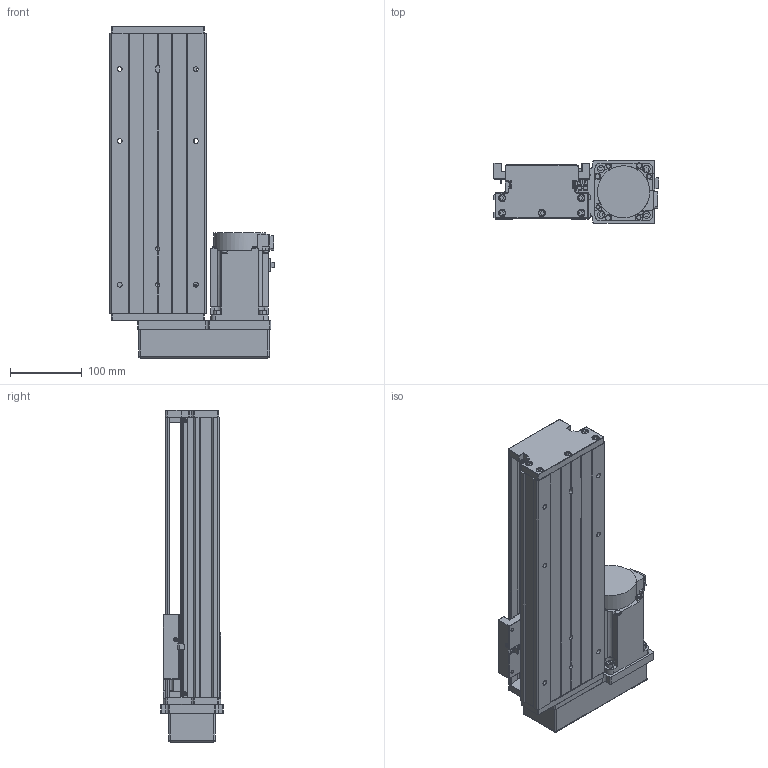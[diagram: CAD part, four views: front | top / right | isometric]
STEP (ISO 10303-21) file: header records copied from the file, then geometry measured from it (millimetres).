
FILE_DESCRIPTION (( 'STEP AP203' ), '1' );
FILE_NAME ('KTH130-250-BR-M75-C4.step', '2023-06-30T04:54:55', ( '微软用户' ), ( '微软中国' ), 'SwSTEP 2.0', 'SolidWorks 2020', '' );
FILE_SCHEMA (( 'CONFIG_CONTROL_DESIGN' ));
Length unit declared in the file: millimetre
Products named in the file (18): KTH130-005; GBT 70.1-M3℅5; GB1155-6X6; GBT77-2000 M3×3; KTH130-250-BR-M75-C4; GBT70.1 M5℅16; す晦芛蹟隊 M3℅5; GBT 70.2-M3¡Á5_M3¡Á6; GBT 70.3-M3℅8; GTH14-001_250; CTHA60-017; hg-kn73j_-s100; KTH130-002_KTH130-002; EE_SX911P_R; CTHA86-015-3_CTHA86-015-4; KTH130-004; CTHA60-016; CTHA86-035
Assembly tree (49 placements, depth 2):
  KTH130-250-BR-M75-C4
    GTH14-001_250
    KTH130-002_KTH130-002
    KTH130-004
    KTH130-005
    GB1155-6X6  x2
    GBT70.1 M5℅16  x10
    GBT 70.2-M3¡Á5_M3¡Á6  x4
    CTHA60-017  x3
    EE_SX911P_R  x3
    CTHA60-016  x2
    GBT 70.1-M3℅5  x6
    GBT77-2000 M3×3  x6
    す晦芛蹟隊 M3℅5  x2
    GBT 70.3-M3℅8  x4
    hg-kn73j_-s100
    CTHA86-015-3_CTHA86-015-4
    CTHA86-035
Bounding box: 230.3 x 87 x 462 mm (x, y, z)
Volume: 3674503.8 mm3; surface area: 534450.4 mm2
Topology: 52 solids, 52 shells, 2172 faces, 5268 edges, 3295 vertices
Faces by surface type: plane 1204, cylinder 614, cone 238, torus 100, sphere 16
Entity records: 39329 total; most frequent: CARTESIAN_POINT 6622, DIRECTION 6457, ORIENTED_EDGE 6040, EDGE_CURVE 3020, AXIS2_PLACEMENT_3D 2248, VECTOR 1961, LINE 1961, VERTEX_POINT 1929
